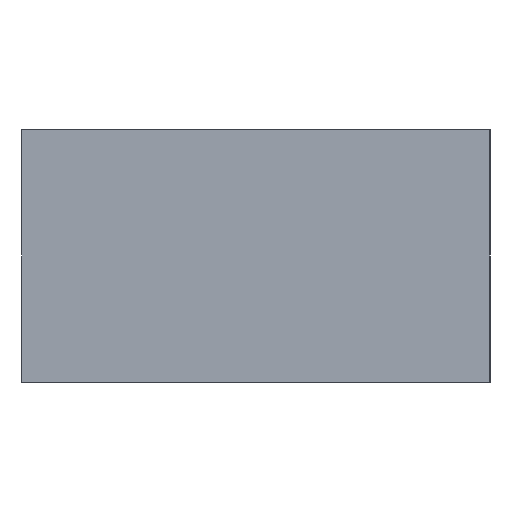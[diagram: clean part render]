
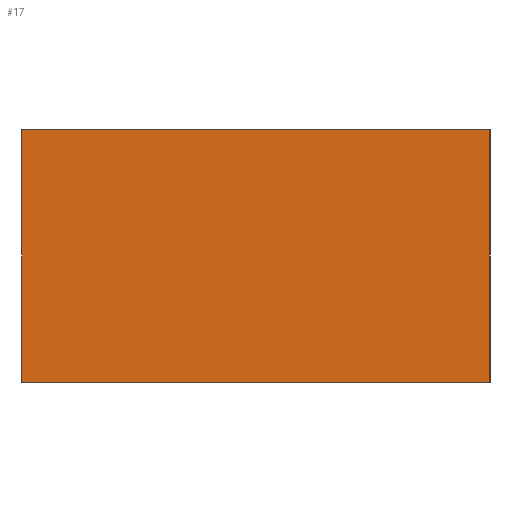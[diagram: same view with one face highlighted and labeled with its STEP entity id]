
A CAD part, left-side view. The second image highlights one B-rep face of the part: STEP entity #17.
In plain terms, the highlighted planar face has unit normal (-1, 0, 0).
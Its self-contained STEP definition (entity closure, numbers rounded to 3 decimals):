
#17 = ADVANCED_FACE('',(#18),#32,.F.);
#18 = FACE_BOUND('',#19,.F.);
#19 = EDGE_LOOP('',(#20,#55,#83,#111));
#20 = ORIENTED_EDGE('',*,*,#21,.F.);
#21 = EDGE_CURVE('',#22,#24,#26,.T.);
#22 = VERTEX_POINT('',#23);
#23 = CARTESIAN_POINT('',(-172.,-143.913,21.));
#24 = VERTEX_POINT('',#25);
#25 = CARTESIAN_POINT('',(-172.,-143.913,23.));
#26 = SURFACE_CURVE('',#27,(#31,#43),.PCURVE_S1.);
#27 = LINE('',#28,#29);
#28 = CARTESIAN_POINT('',(-172.,-143.913,21.));
#29 = VECTOR('',#30,1.);
#30 = DIRECTION('',(0.,0.,1.));
#31 = PCURVE('',#32,#37);
#32 = PLANE('',#33);
#33 = AXIS2_PLACEMENT_3D('',#34,#35,#36);
#34 = CARTESIAN_POINT('',(-172.,-143.913,21.));
#35 = DIRECTION('',(1.,0.,-0.));
#36 = DIRECTION('',(0.,0.,1.));
#37 = DEFINITIONAL_REPRESENTATION('',(#38),#42);
#38 = LINE('',#39,#40);
#39 = CARTESIAN_POINT('',(0.,0.));
#40 = VECTOR('',#41,1.);
#41 = DIRECTION('',(1.,0.));
#42 = ( GEOMETRIC_REPRESENTATION_CONTEXT(2) 
PARAMETRIC_REPRESENTATION_CONTEXT() REPRESENTATION_CONTEXT('2D SPACE',''
  ) );
#43 = PCURVE('',#44,#49);
#44 = PLANE('',#45);
#45 = AXIS2_PLACEMENT_3D('',#46,#47,#48);
#46 = CARTESIAN_POINT('',(-172.,-143.913,21.));
#47 = DIRECTION('',(-0.,1.,0.));
#48 = DIRECTION('',(0.,0.,1.));
#49 = DEFINITIONAL_REPRESENTATION('',(#50),#54);
#50 = LINE('',#51,#52);
#51 = CARTESIAN_POINT('',(0.,0.));
#52 = VECTOR('',#53,1.);
#53 = DIRECTION('',(1.,0.));
#54 = ( GEOMETRIC_REPRESENTATION_CONTEXT(2) 
PARAMETRIC_REPRESENTATION_CONTEXT() REPRESENTATION_CONTEXT('2D SPACE',''
  ) );
#55 = ORIENTED_EDGE('',*,*,#56,.T.);
#56 = EDGE_CURVE('',#22,#57,#59,.T.);
#57 = VERTEX_POINT('',#58);
#58 = CARTESIAN_POINT('',(-172.,-140.213,21.));
#59 = SURFACE_CURVE('',#60,(#64,#71),.PCURVE_S1.);
#60 = LINE('',#61,#62);
#61 = CARTESIAN_POINT('',(-172.,-143.913,21.));
#62 = VECTOR('',#63,1.);
#63 = DIRECTION('',(-0.,1.,0.));
#64 = PCURVE('',#32,#65);
#65 = DEFINITIONAL_REPRESENTATION('',(#66),#70);
#66 = LINE('',#67,#68);
#67 = CARTESIAN_POINT('',(0.,0.));
#68 = VECTOR('',#69,1.);
#69 = DIRECTION('',(0.,-1.));
#70 = ( GEOMETRIC_REPRESENTATION_CONTEXT(2) 
PARAMETRIC_REPRESENTATION_CONTEXT() REPRESENTATION_CONTEXT('2D SPACE',''
  ) );
#71 = PCURVE('',#72,#77);
#72 = PLANE('',#73);
#73 = AXIS2_PLACEMENT_3D('',#74,#75,#76);
#74 = CARTESIAN_POINT('',(-172.,-143.913,21.));
#75 = DIRECTION('',(0.,0.,1.));
#76 = DIRECTION('',(1.,0.,-0.));
#77 = DEFINITIONAL_REPRESENTATION('',(#78),#82);
#78 = LINE('',#79,#80);
#79 = CARTESIAN_POINT('',(0.,0.));
#80 = VECTOR('',#81,1.);
#81 = DIRECTION('',(0.,1.));
#82 = ( GEOMETRIC_REPRESENTATION_CONTEXT(2) 
PARAMETRIC_REPRESENTATION_CONTEXT() REPRESENTATION_CONTEXT('2D SPACE',''
  ) );
#83 = ORIENTED_EDGE('',*,*,#84,.T.);
#84 = EDGE_CURVE('',#57,#85,#87,.T.);
#85 = VERTEX_POINT('',#86);
#86 = CARTESIAN_POINT('',(-172.,-140.213,23.));
#87 = SURFACE_CURVE('',#88,(#92,#99),.PCURVE_S1.);
#88 = LINE('',#89,#90);
#89 = CARTESIAN_POINT('',(-172.,-140.213,21.));
#90 = VECTOR('',#91,1.);
#91 = DIRECTION('',(0.,0.,1.));
#92 = PCURVE('',#32,#93);
#93 = DEFINITIONAL_REPRESENTATION('',(#94),#98);
#94 = LINE('',#95,#96);
#95 = CARTESIAN_POINT('',(0.,-3.7));
#96 = VECTOR('',#97,1.);
#97 = DIRECTION('',(1.,0.));
#98 = ( GEOMETRIC_REPRESENTATION_CONTEXT(2) 
PARAMETRIC_REPRESENTATION_CONTEXT() REPRESENTATION_CONTEXT('2D SPACE',''
  ) );
#99 = PCURVE('',#100,#105);
#100 = PLANE('',#101);
#101 = AXIS2_PLACEMENT_3D('',#102,#103,#104);
#102 = CARTESIAN_POINT('',(-172.,-140.213,21.));
#103 = DIRECTION('',(-0.,1.,0.));
#104 = DIRECTION('',(0.,0.,1.));
#105 = DEFINITIONAL_REPRESENTATION('',(#106),#110);
#106 = LINE('',#107,#108);
#107 = CARTESIAN_POINT('',(0.,0.));
#108 = VECTOR('',#109,1.);
#109 = DIRECTION('',(1.,0.));
#110 = ( GEOMETRIC_REPRESENTATION_CONTEXT(2) 
PARAMETRIC_REPRESENTATION_CONTEXT() REPRESENTATION_CONTEXT('2D SPACE',''
  ) );
#111 = ORIENTED_EDGE('',*,*,#112,.F.);
#112 = EDGE_CURVE('',#24,#85,#113,.T.);
#113 = SURFACE_CURVE('',#114,(#118,#125),.PCURVE_S1.);
#114 = LINE('',#115,#116);
#115 = CARTESIAN_POINT('',(-172.,-143.913,23.));
#116 = VECTOR('',#117,1.);
#117 = DIRECTION('',(-0.,1.,0.));
#118 = PCURVE('',#32,#119);
#119 = DEFINITIONAL_REPRESENTATION('',(#120),#124);
#120 = LINE('',#121,#122);
#121 = CARTESIAN_POINT('',(2.,0.));
#122 = VECTOR('',#123,1.);
#123 = DIRECTION('',(0.,-1.));
#124 = ( GEOMETRIC_REPRESENTATION_CONTEXT(2) 
PARAMETRIC_REPRESENTATION_CONTEXT() REPRESENTATION_CONTEXT('2D SPACE',''
  ) );
#125 = PCURVE('',#126,#131);
#126 = PLANE('',#127);
#127 = AXIS2_PLACEMENT_3D('',#128,#129,#130);
#128 = CARTESIAN_POINT('',(-172.,-143.913,23.));
#129 = DIRECTION('',(0.,0.,1.));
#130 = DIRECTION('',(1.,0.,-0.));
#131 = DEFINITIONAL_REPRESENTATION('',(#132),#136);
#132 = LINE('',#133,#134);
#133 = CARTESIAN_POINT('',(0.,0.));
#134 = VECTOR('',#135,1.);
#135 = DIRECTION('',(0.,1.));
#136 = ( GEOMETRIC_REPRESENTATION_CONTEXT(2) 
PARAMETRIC_REPRESENTATION_CONTEXT() REPRESENTATION_CONTEXT('2D SPACE',''
  ) );
